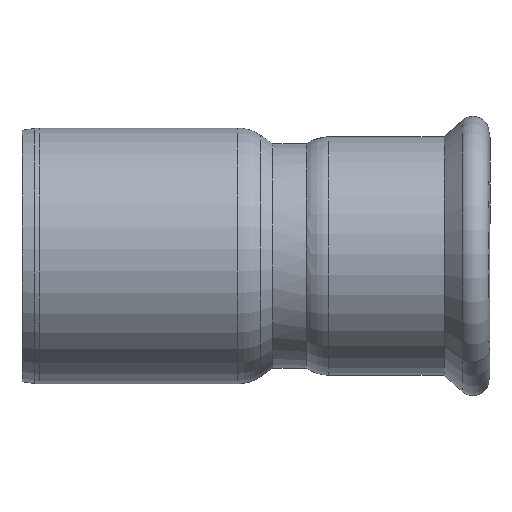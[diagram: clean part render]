
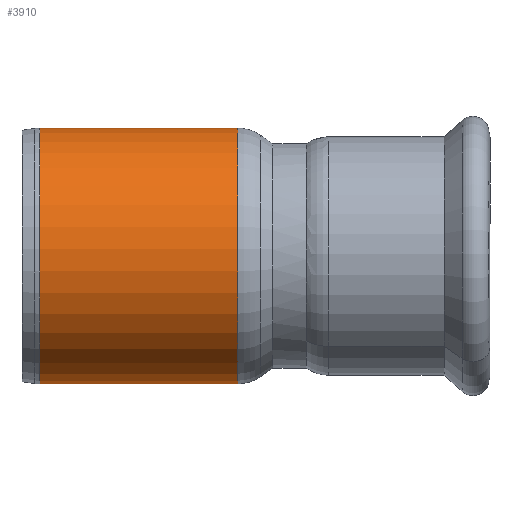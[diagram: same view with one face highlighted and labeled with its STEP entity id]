
A CAD part, front view. The second image highlights one B-rep face of the part: STEP entity #3910.
In plain terms, the highlighted cylindrical face has radius 38.05 mm (diameter 76.1 mm), a partial arc.
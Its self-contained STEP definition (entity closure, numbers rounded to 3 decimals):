
#110=CARTESIAN_POINT('',(-71.137,-2.186,
-37.987));
#120=VERTEX_POINT('',#110);
#310=CARTESIAN_POINT('',(-71.137,2.186,
37.987));
#320=VERTEX_POINT('',#310);
#350=CARTESIAN_POINT('',(-71.137,0.,
0.));
#360=DIRECTION('',(1.,0.,0.));
#370=DIRECTION('',(0.,0.057,
0.998));
#380=AXIS2_PLACEMENT_3D('',#350,#360,#370);
#390=CIRCLE('',#380,38.05);
#400=EDGE_CURVE('',#320,#120,#390,.T.);
#3460=CARTESIAN_POINT('',(-12.292,2.186,
37.987));
#3470=VERTEX_POINT('',#3460);
#3560=CARTESIAN_POINT('',(-12.292,-2.186,
-37.987));
#3570=VERTEX_POINT('',#3560);
#3600=CARTESIAN_POINT('',(-12.292,0.,
0.));
#3610=DIRECTION('',(1.,0.,0.));
#3620=DIRECTION('',(0.,0.057,
0.998));
#3630=AXIS2_PLACEMENT_3D('',#3600,#3610,#3620);
#3640=CIRCLE('',#3630,38.05);
#3650=EDGE_CURVE('',#3470,#3570,#3640,.T.);
#3700=CARTESIAN_POINT('',(-40.217,0.,
0.));
#3710=DIRECTION('',(1.,0.,0.));
#3720=DIRECTION('',(0.,-0.057,
-0.998));
#3730=AXIS2_PLACEMENT_3D('',#3700,#3710,#3720);
#3740=CYLINDRICAL_SURFACE('',#3730,38.05);
#3750=CARTESIAN_POINT('',(-40.217,2.186,
37.987));
#3760=DIRECTION('',(1.,0.,0.));
#3770=VECTOR('',#3760,1.);
#3780=LINE('',#3750,#3770);
#3790=EDGE_CURVE('',#320,#3470,#3780,.T.);
#3800=ORIENTED_EDGE('',*,*,#3790,.F.);
#3810=ORIENTED_EDGE('',*,*,#3650,.F.);
#3820=CARTESIAN_POINT('',(-40.217,-2.186,
-37.987));
#3830=DIRECTION('',(1.,0.,0.));
#3840=VECTOR('',#3830,1.);
#3850=LINE('',#3820,#3840);
#3860=EDGE_CURVE('',#120,#3570,#3850,.T.);
#3870=ORIENTED_EDGE('',*,*,#3860,.T.);
#3880=ORIENTED_EDGE('',*,*,#400,.T.);
#3890=EDGE_LOOP('',(#3880,#3870,#3810,#3800));
#3900=FACE_OUTER_BOUND('',#3890,.T.);
#3910=ADVANCED_FACE('',(#3900),#3740,.T.);
